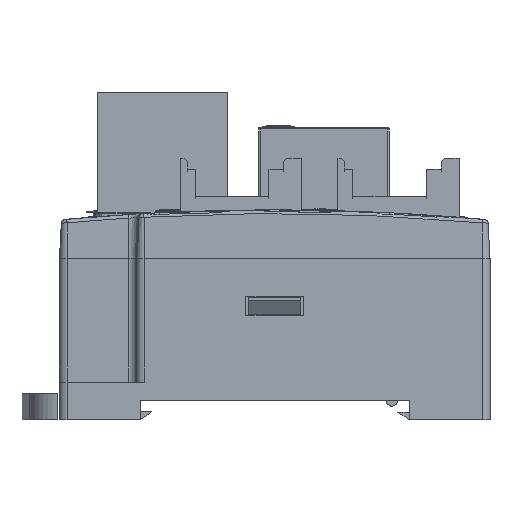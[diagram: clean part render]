
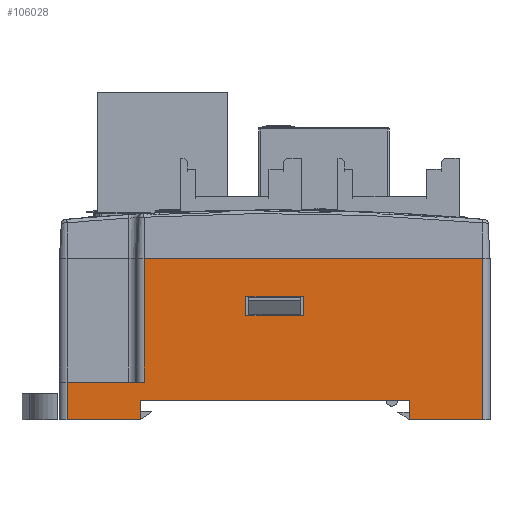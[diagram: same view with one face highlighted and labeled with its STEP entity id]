
A CAD part, front view. The second image highlights one B-rep face of the part: STEP entity #106028.
In plain terms, the highlighted planar face has unit normal (0, -1, 0).
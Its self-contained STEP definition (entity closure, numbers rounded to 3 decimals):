
#5279=DIRECTION('',(0.,0.,-1.));
#5280=VECTOR('',#5279,21.);
#5281=CARTESIAN_POINT('',(27.,-60.,0.));
#5282=LINE('',#5281,#5280);
#5339=DIRECTION('',(0.,0.,-1.));
#5340=VECTOR('',#5339,2.5);
#5341=CARTESIAN_POINT('',(17.5,-60.,-18.5));
#5342=LINE('',#5341,#5340);
#5932=DIRECTION('',(0.,0.,1.));
#5933=VECTOR('',#5932,16.1);
#5934=CARTESIAN_POINT('',(-17.,-60.,-16.1));
#5935=LINE('',#5934,#5933);
#5940=DIRECTION('',(1.,0.,0.));
#5941=VECTOR('',#5940,9.5);
#5942=CARTESIAN_POINT('',(17.5,-60.,-21.));
#5943=LINE('',#5942,#5941);
#5944=DIRECTION('',(1.,0.,0.));
#5945=VECTOR('',#5944,9.5);
#5946=CARTESIAN_POINT('',(-27.,-60.,-21.));
#5947=LINE('',#5946,#5945);
#5948=DIRECTION('',(0.,0.,1.));
#5949=VECTOR('',#5948,2.5);
#5950=CARTESIAN_POINT('',(-3.75,-60.,-7.5));
#5951=LINE('',#5950,#5949);
#6020=DIRECTION('',(1.,0.,0.));
#6021=VECTOR('',#6020,7.5);
#6022=CARTESIAN_POINT('',(-3.75,-60.,-5.));
#6023=LINE('',#6022,#6021);
#6211=DIRECTION('',(0.,0.,-1.));
#6212=VECTOR('',#6211,2.5);
#6213=CARTESIAN_POINT('',(3.75,-60.,-5.));
#6214=LINE('',#6213,#6212);
#6219=DIRECTION('',(-1.,0.,0.));
#6220=VECTOR('',#6219,7.5);
#6221=CARTESIAN_POINT('',(3.75,-60.,-7.5));
#6222=LINE('',#6221,#6220);
#6231=DIRECTION('',(-1.,0.,0.));
#6232=VECTOR('',#6231,35.);
#6233=CARTESIAN_POINT('',(17.5,-60.,-18.5));
#6234=LINE('',#6233,#6232);
#6239=DIRECTION('',(0.,0.,1.));
#6240=VECTOR('',#6239,2.5);
#6241=CARTESIAN_POINT('',(-17.5,-60.,-21.));
#6242=LINE('',#6241,#6240);
#38897=DIRECTION('',(1.,0.,0.));
#38898=VECTOR('',#38897,10.);
#38899=CARTESIAN_POINT('',(-27.,-60.,-16.1));
#38900=LINE('',#38899,#38898);
#38934=DIRECTION('',(0.,0.,1.));
#38935=VECTOR('',#38934,4.9);
#38936=CARTESIAN_POINT('',(-27.,-60.,-21.));
#38937=LINE('',#38936,#38935);
#39027=DIRECTION('',(1.,0.,0.));
#39028=VECTOR('',#39027,44.);
#39029=CARTESIAN_POINT('',(-17.,-60.,0.));
#39030=LINE('',#39029,#39028);
#81590=CARTESIAN_POINT('',(-17.5,-60.,-21.));
#81591=VERTEX_POINT('',#81590);
#81592=CARTESIAN_POINT('',(-27.,-60.,-21.));
#81593=VERTEX_POINT('',#81592);
#81620=CARTESIAN_POINT('',(27.,-60.,-21.));
#81621=VERTEX_POINT('',#81620);
#81622=CARTESIAN_POINT('',(17.5,-60.,-21.));
#81623=VERTEX_POINT('',#81622);
#81692=CARTESIAN_POINT('',(17.5,-60.,-18.5));
#81693=CARTESIAN_POINT('',(-17.5,-60.,-18.5));
#81694=VERTEX_POINT('',#81692);
#81695=VERTEX_POINT('',#81693);
#81696=CARTESIAN_POINT('',(-27.,-60.,-16.1));
#81697=VERTEX_POINT('',#81696);
#81698=CARTESIAN_POINT('',(-17.,-60.,-16.1));
#81699=VERTEX_POINT('',#81698);
#81700=CARTESIAN_POINT('',(-3.75,-60.,-7.5));
#81701=CARTESIAN_POINT('',(-3.75,-60.,-5.));
#81702=VERTEX_POINT('',#81700);
#81703=VERTEX_POINT('',#81701);
#81704=CARTESIAN_POINT('',(3.75,-60.,-7.5));
#81705=VERTEX_POINT('',#81704);
#81706=CARTESIAN_POINT('',(3.75,-60.,-5.));
#81707=VERTEX_POINT('',#81706);
#98869=CARTESIAN_POINT('',(-17.,-60.,0.));
#98870=CARTESIAN_POINT('',(27.,-60.,0.));
#98871=VERTEX_POINT('',#98869);
#98872=VERTEX_POINT('',#98870);
#105995=CARTESIAN_POINT('',(0.,-60.,-10.5));
#105996=DIRECTION('',(0.,1.,0.));
#105997=DIRECTION('',(1.,0.,0.));
#105998=AXIS2_PLACEMENT_3D('',#105995,#105996,#105997);
#105999=PLANE('',#105998);
#106000=ORIENTED_EDGE('',*,*,#104822,.T.);
#106001=ORIENTED_EDGE('',*,*,#104843,.F.);
#106002=ORIENTED_EDGE('',*,*,#104941,.F.);
#106004=ORIENTED_EDGE('',*,*,#106003,.T.);
#106006=ORIENTED_EDGE('',*,*,#106005,.F.);
#106008=ORIENTED_EDGE('',*,*,#106007,.F.);
#106010=ORIENTED_EDGE('',*,*,#106009,.T.);
#106012=ORIENTED_EDGE('',*,*,#106011,.T.);
#106013=ORIENTED_EDGE('',*,*,#105979,.T.);
#106015=ORIENTED_EDGE('',*,*,#106014,.T.);
#106016=EDGE_LOOP('',(#106000,#106001,#106002,#106004,#106006,#106008,#106010,
#106012,#106013,#106015));
#106017=FACE_OUTER_BOUND('',#106016,.F.);
#106019=ORIENTED_EDGE('',*,*,#106018,.F.);
#106021=ORIENTED_EDGE('',*,*,#106020,.F.);
#106023=ORIENTED_EDGE('',*,*,#106022,.F.);
#106025=ORIENTED_EDGE('',*,*,#106024,.F.);
#106026=EDGE_LOOP('',(#106019,#106021,#106023,#106025));
#106027=FACE_BOUND('',#106026,.F.);
#106028=ADVANCED_FACE('',(#106017,#106027),#105999,.F.);
#104822=EDGE_CURVE('',#98872,#81621,#5282,.T.);
#104843=EDGE_CURVE('',#81623,#81621,#5943,.T.);
#104941=EDGE_CURVE('',#81694,#81623,#5342,.T.);
#105979=EDGE_CURVE('',#81699,#98871,#5935,.T.);
#106003=EDGE_CURVE('',#81694,#81695,#6234,.T.);
#106005=EDGE_CURVE('',#81591,#81695,#6242,.T.);
#106007=EDGE_CURVE('',#81593,#81591,#5947,.T.);
#106009=EDGE_CURVE('',#81593,#81697,#38937,.T.);
#106011=EDGE_CURVE('',#81697,#81699,#38900,.T.);
#106014=EDGE_CURVE('',#98871,#98872,#39030,.T.);
#106018=EDGE_CURVE('',#81702,#81703,#5951,.T.);
#106020=EDGE_CURVE('',#81705,#81702,#6222,.T.);
#106022=EDGE_CURVE('',#81707,#81705,#6214,.T.);
#106024=EDGE_CURVE('',#81703,#81707,#6023,.T.);
